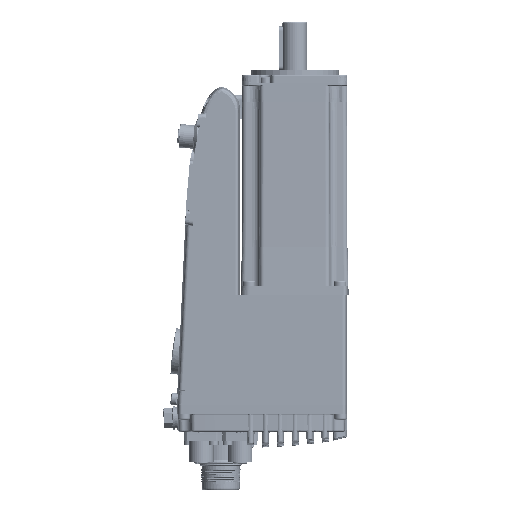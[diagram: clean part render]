
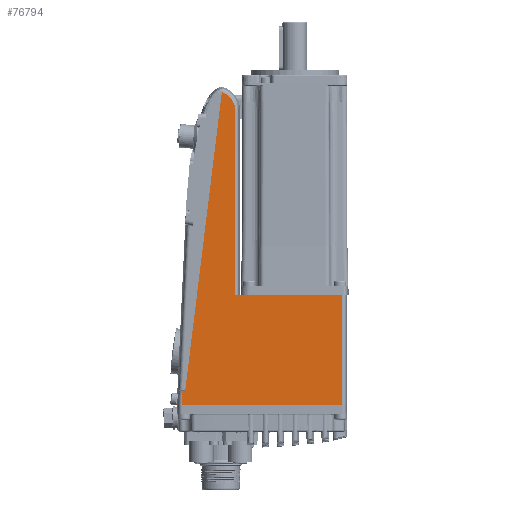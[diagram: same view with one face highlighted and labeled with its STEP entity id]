
A CAD part, left-side view. The second image highlights one B-rep face of the part: STEP entity #76794.
In plain terms, the highlighted planar face has unit normal (-1, 0, 0).
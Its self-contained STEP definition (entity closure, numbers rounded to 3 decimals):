
#7255=B_SPLINE_CURVE_WITH_KNOTS('',3,(#135932,#135933,#135934,#135935,#135936,
#135937,#135938,#135939,#135940,#135941,#135942,#135943,#135944,#135945,
#135946),.UNSPECIFIED.,.F.,.F.,(4,1,1,1,1,1,1,1,1,1,1,1,4),(0.741,
0.75,0.751,0.781,0.813,0.844,0.854,0.875,0.879,
0.906,0.938,0.969,1.),.UNSPECIFIED.);
#7256=B_SPLINE_CURVE_WITH_KNOTS('',3,(#135952,#135953,#135954,#135955),
 .UNSPECIFIED.,.F.,.F.,(4,4),(0.,1.),
 .UNSPECIFIED.);
#18757=ORIENTED_EDGE('',*,*,#30278,.F.);
#18758=ORIENTED_EDGE('',*,*,#30162,.T.);
#18759=ORIENTED_EDGE('',*,*,#30279,.T.);
#18760=ORIENTED_EDGE('',*,*,#30280,.F.);
#18761=ORIENTED_EDGE('',*,*,#30124,.F.);
#18762=ORIENTED_EDGE('',*,*,#30281,.T.);
#18763=ORIENTED_EDGE('',*,*,#30200,.F.);
#18764=ORIENTED_EDGE('',*,*,#30282,.T.);
#30124=EDGE_CURVE('',#36756,#36757,#40694,.T.);
#30162=EDGE_CURVE('',#36789,#36788,#40721,.T.);
#30200=EDGE_CURVE('',#36820,#36821,#40745,.T.);
#30278=EDGE_CURVE('',#36789,#36873,#7255,.T.);
#30279=EDGE_CURVE('',#36788,#36874,#40780,.T.);
#30280=EDGE_CURVE('',#36757,#36874,#40781,.F.);
#30281=EDGE_CURVE('',#36756,#36821,#40782,.T.);
#30282=EDGE_CURVE('',#36820,#36873,#7256,.T.);
#36756=VERTEX_POINT('',#134953);
#36757=VERTEX_POINT('',#134955);
#36788=VERTEX_POINT('',#135034);
#36789=VERTEX_POINT('',#135036);
#36820=VERTEX_POINT('',#135125);
#36821=VERTEX_POINT('',#135127);
#36873=VERTEX_POINT('',#135947);
#36874=VERTEX_POINT('',#135949);
#40694=LINE('',#134954,#44320);
#40721=LINE('',#135035,#44347);
#40745=LINE('',#135126,#44371);
#40780=LINE('',#135948,#44406);
#40781=LINE('',#135950,#44407);
#40782=LINE('',#135951,#44408);
#44320=VECTOR('',#95495,1000.);
#44347=VECTOR('',#95550,1000.);
#44371=VECTOR('',#95592,1000.);
#44406=VECTOR('',#95693,1000.);
#44407=VECTOR('',#95694,1000.);
#44408=VECTOR('',#95695,1000.);
#49007=EDGE_LOOP('',(#18757,#18758,#18759,#18760,#18761,#18762,#18763,#18764));
#53627=FACE_BOUND('',#49007,.T.);
#55770=PLANE('',#82691);
#76794=ADVANCED_FACE('',(#53627),#55770,.T.);
#82691=AXIS2_PLACEMENT_3D('',#135931,#95691,#95692);
#95495=DIRECTION('',(0.,1.,0.));
#95550=DIRECTION('',(0.,0.122,-0.993));
#95592=DIRECTION('',(0.,-1.,0.));
#95691=DIRECTION('',(-1.,0.,0.));
#95692=DIRECTION('',(0.,1.,0.));
#95693=DIRECTION('',(0.,1.,-0.009));
#95694=DIRECTION('',(0.,0.047,-0.999));
#95695=DIRECTION('',(0.,0.,1.));
#134953=CARTESIAN_POINT('',(-30.,-27.131,-62.8));
#134954=CARTESIAN_POINT('',(-30.,64.179,-62.8));
#134955=CARTESIAN_POINT('',(-30.,64.131,-62.8));
#135034=CARTESIAN_POINT('',(-30.,62.175,-54.46));
#135035=CARTESIAN_POINT('',(-30.,63.335,-63.904));
#135036=CARTESIAN_POINT('',(-30.,41.351,115.14));
#135125=CARTESIAN_POINT('',(-30.,33.84,0.));
#135126=CARTESIAN_POINT('',(-30.,33.865,0.));
#135127=CARTESIAN_POINT('',(-30.,-27.131,0.));
#135931=CARTESIAN_POINT('',(-30.,64.179,-63.8));
#135932=CARTESIAN_POINT('',(-30.,41.351,115.14));
#135933=CARTESIAN_POINT('',(-30.,41.278,115.139));
#135934=CARTESIAN_POINT('',(-30.,41.199,115.131));
#135935=CARTESIAN_POINT('',(-30.,40.85,115.076));
#135936=CARTESIAN_POINT('',(-30.,40.176,114.876));
#135937=CARTESIAN_POINT('',(-30.,38.714,114.021));
#135938=CARTESIAN_POINT('',(-30.,37.598,113.083));
#135939=CARTESIAN_POINT('',(-30.,36.76,112.255));
#135940=CARTESIAN_POINT('',(-30.,36.354,111.8));
#135941=CARTESIAN_POINT('',(-30.,35.788,111.093));
#135942=CARTESIAN_POINT('',(-30.,35.161,110.194));
#135943=CARTESIAN_POINT('',(-30.,34.464,108.767));
#135944=CARTESIAN_POINT('',(-30.,33.974,107.039));
#135945=CARTESIAN_POINT('',(-30.,33.865,105.634));
#135946=CARTESIAN_POINT('',(-30.,33.865,104.865));
#135947=CARTESIAN_POINT('',(-30.,33.865,104.865));
#135948=CARTESIAN_POINT('',(-30.,64.26,-54.478));
#135949=CARTESIAN_POINT('',(-30.,63.739,-54.473));
#135950=CARTESIAN_POINT('',(-30.,64.053,-61.15));
#135951=CARTESIAN_POINT('',(-30.,-27.131,-62.8));
#135952=CARTESIAN_POINT('',(-30.,33.865,0.));
#135953=CARTESIAN_POINT('',(-30.,33.865,34.955));
#135954=CARTESIAN_POINT('',(-30.,33.865,69.91));
#135955=CARTESIAN_POINT('',(-30.,33.865,104.865));
